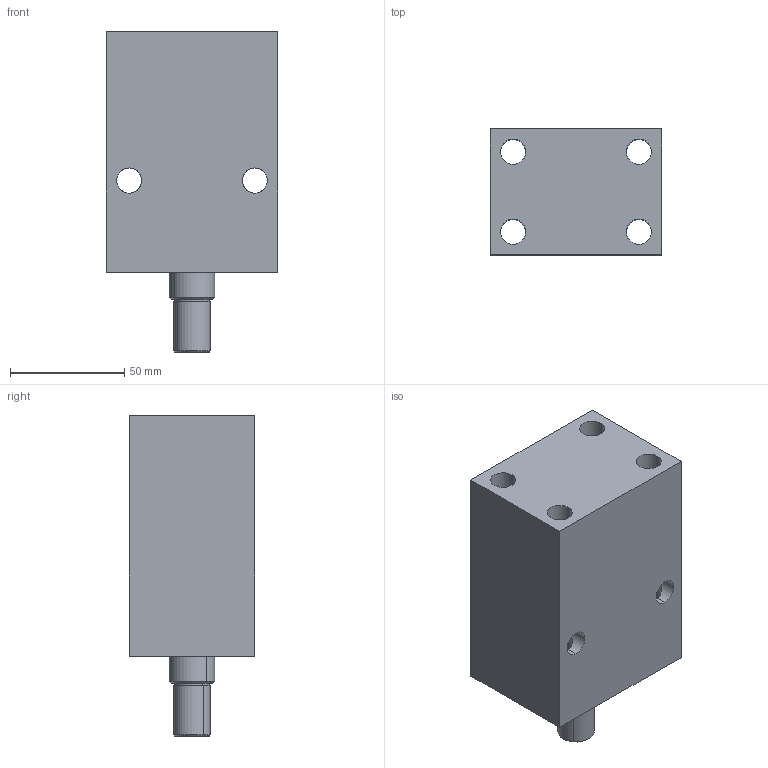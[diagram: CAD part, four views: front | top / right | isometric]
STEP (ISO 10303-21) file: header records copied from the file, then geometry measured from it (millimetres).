
FILE_DESCRIPTION (( 'STEP AP203' ), '1' );
FILE_NAME ('Block cylinder_B01C-250M.STEP', '2022-07-09T18:10:03', ( '' ), ( '' ), 'SwSTEP 2.0', 'SolidWorks 2017', '' );
FILE_SCHEMA (( 'CONFIG_CONTROL_DESIGN' ));
Length unit declared in the file: millimetre
Products named in the file (3): Piston_250M_50sT; Block cylinder_B01C-250M; Body_250M_50ST
Assembly tree (2 placements, depth 2):
  Block cylinder_B01C-250M
    Body_250M_50ST
    Piston_250M_50sT
Bounding box: 75 x 55 x 140 mm (x, y, z)
Volume: 391073.1 mm3; surface area: 61758.4 mm2
Topology: 2 solids, 2 shells, 352 faces, 958 edges, 626 vertices
Faces by surface type: bspline 156, plane 142, cylinder 46, cone 8
Entity records: 17703 total; most frequent: CARTESIAN_POINT 9621, ORIENTED_EDGE 1908, DIRECTION 1076, EDGE_CURVE 954, VERTEX_POINT 626, VECTOR 546, LINE 546, EDGE_LOOP 392
